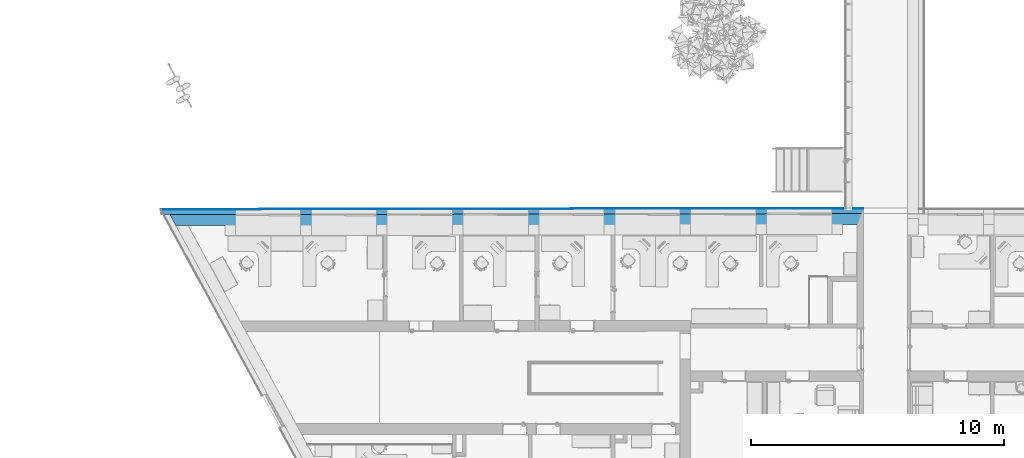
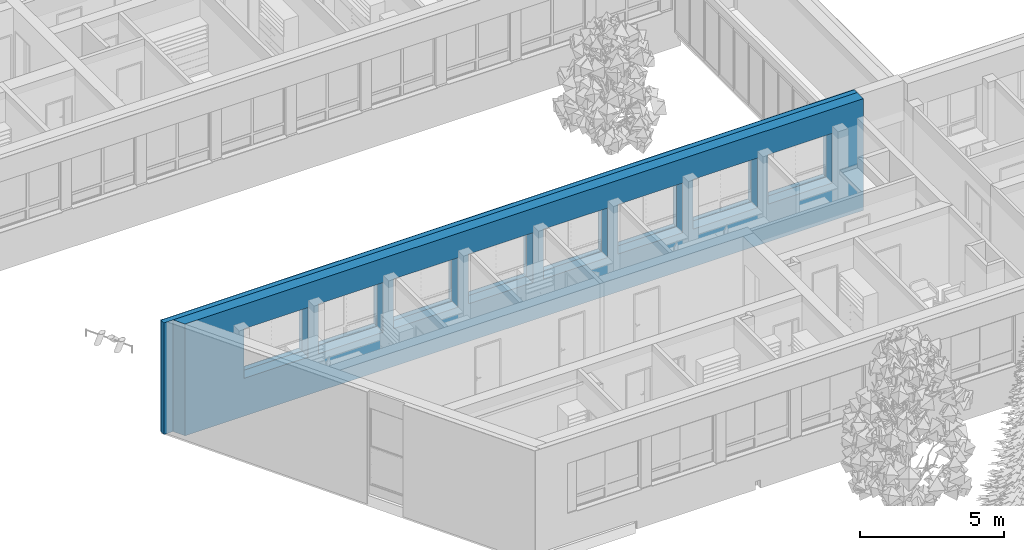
# One storey, part 88 of 194: 3 building element parts, 8 openings, 1 element without a shape of its own.
"""IFC2X3 building model written with IfcOpenShell, lengths in millimetres."""

from ifc_helpers import new_model, entity, si_unit, converted_unit, derived_unit, money_unit, direction, frame, origin_with_axes, origin_2d_with_axis, place, context, subcontext, project, spatial, polyline, rectangle, outline, extrude, boolean, faceted_brep, material, type_object, element, aggregate, save


model = new_model("IFC2X3")

# Units and contexts
model_context = context("Model", 3, precision=1e-05, world=origin_with_axes(), true_north=direction((0.0, 1.0)))
body_context = subcontext(model_context, "Body", "Model", "MODEL_VIEW")
ifc_project = project(units=[si_unit("LENGTHUNIT", "METRE", prefix="MILLI"), si_unit("AREAUNIT", "SQUARE_METRE"), si_unit("VOLUMEUNIT", "CUBIC_METRE"), converted_unit("PLANEANGLEUNIT", "DEGREE", entity("IfcPlaneAngleMeasure", 0.0174532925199), si_unit("PLANEANGLEUNIT", "RADIAN"), dimensions=[0, 0, 0, 0, 0, 0, 0]), si_unit("SOLIDANGLEUNIT", "STERADIAN"), money_unit("EUR"), converted_unit("TIMEUNIT", "Year", entity("IfcTimeMeasure", 31556926.0), si_unit("TIMEUNIT", "SECOND"), dimensions=[0, 0, 1, 0, 0, 0, 0]), si_unit("MASSUNIT", "GRAM", prefix="KILO"), si_unit("THERMODYNAMICTEMPERATUREUNIT", "DEGREE_CELSIUS"), si_unit("LUMINOUSINTENSITYUNIT", "LUMEN"), si_unit("ENERGYUNIT", "JOULE", prefix="MEGA"), derived_unit("THERMALCONDUCTANCEUNIT", [(si_unit("POWERUNIT", "WATT"), 1), (si_unit("LENGTHUNIT", "METRE"), -1), (si_unit("THERMODYNAMICTEMPERATUREUNIT", "KELVIN"), -1)]), derived_unit("SPECIFICHEATCAPACITYUNIT", [(si_unit("ENERGYUNIT", "JOULE"), 1), (si_unit("MASSUNIT", "GRAM", prefix="KILO"), -1), (si_unit("THERMODYNAMICTEMPERATUREUNIT", "KELVIN"), -1)]), derived_unit("MASSDENSITYUNIT", [(si_unit("MASSUNIT", "GRAM", prefix="KILO"), 1), (si_unit("VOLUMEUNIT", "CUBIC_METRE"), -1)])], contexts=[model_context])

# Site, building, storey
site_placement = place(None, origin_with_axes())
site = spatial("IfcSite", under=ifc_project, at=site_placement, Name="Site", CompositionType="ELEMENT")
building_placement = place(site_placement, origin_with_axes())
building = spatial("IfcBuilding", under=site, at=building_placement, Name="Building", CompositionType="ELEMENT")
storey_placement = place(building_placement, frame((0.0, 0.0, 3000.0), z_axis=(0.0, 0.0, 1.0), x_axis=(1.0, 0.0, 0.0)))
storey = spatial("IfcBuildingStorey", under=building, at=storey_placement, Name="2 KORRUS", CompositionType="ELEMENT", Elevation=3000.0)

# Wall, openings, building element parts
wall_type = type_object("IfcWallType", Name="VS4", PredefinedType="NOTDEFINED")
wall_placement = place(storey_placement, frame((10563.4683047, 47277.3075683, -750.0), z_axis=(0.0, 0.0, 1.0), x_axis=(0.999998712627, 0.00160460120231, 0.0)))
wall = element("IfcWall", 1, at=wall_placement, inside=storey, type_object=wall_type, Name="VS4")
opening_1_placement = place(wall_placement, frame((3879.94877844, -9.09494701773e-10, 1600.0), z_axis=(0.0, 0.0, 1.0), x_axis=(1.0, 0.0, 0.0)))
element("IfcOpeningElement", 2, at=opening_1_placement, cuts=wall, Name="välisaken * Double Window 22", context=body_context, shape_type="SweptSolid", body=[
    extrude(rectangle(XDim=2580.0, YDim=2100.0, at=origin_2d_with_axis()), frame((0.0, 20.0000000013, 1050.0), z_axis=(0.0, -1.0, 0.0), x_axis=(1.0, 0.0, 0.0)), (0.0, 0.0, 1.0), 1100.0),
    extrude(rectangle(XDim=2580.0, YDim=2100.0, at=origin_2d_with_axis()), frame((0.0, 20.0000000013, 1050.0), z_axis=(0.0, 1.0, 0.0), x_axis=(1.0, 0.0, 0.0)), (0.0, 0.0, 1.0), 850.0),
])
opening_2_placement = place(wall_placement, frame((6881.81651348, 0.0, 1600.0), z_axis=(0.0, 0.0, 1.0), x_axis=(1.0, 0.0, 0.0)))
element("IfcOpeningElement", 3, at=opening_2_placement, cuts=wall, Name="välisaken * Double Window 22", context=body_context, shape_type="SweptSolid", body=[
    extrude(rectangle(XDim=2580.0, YDim=2100.0, at=origin_2d_with_axis()), frame((0.0, 19.9999999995, 1050.0), z_axis=(0.0, -1.0, 0.0), x_axis=(1.0, 0.0, 0.0)), (0.0, 0.0, 1.0), 1100.0),
    extrude(rectangle(XDim=2580.0, YDim=2100.0, at=origin_2d_with_axis()), frame((0.0, 19.9999999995, 1050.0), z_axis=(0.0, 1.0, 0.0), x_axis=(1.0, 0.0, 0.0)), (0.0, 0.0, 1.0), 850.0),
])
opening_3_placement = place(wall_placement, frame((9881.50296088, 0.0, 1600.0), z_axis=(0.0, 0.0, 1.0), x_axis=(1.0, 0.0, 0.0)))
element("IfcOpeningElement", 4, at=opening_3_placement, cuts=wall, Name="välisaken * Double Window 22", context=body_context, shape_type="SweptSolid", body=[
    extrude(rectangle(XDim=2580.0, YDim=2100.0, at=origin_2d_with_axis()), frame((1.13686837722e-10, 19.9999999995, 1050.0), z_axis=(0.0, -1.0, 0.0), x_axis=(1.0, 0.0, 0.0)), (0.0, 0.0, 1.0), 1100.0),
    extrude(rectangle(XDim=2580.0, YDim=2100.0, at=origin_2d_with_axis()), frame((2.27373675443e-10, 19.9999999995, 1050.0), z_axis=(0.0, 1.0, 0.0), x_axis=(1.0, 0.0, 0.0)), (0.0, 0.0, 1.0), 850.0),
])
opening_4_placement = place(wall_placement, frame((12880.3488158, 0.0, 1600.0), z_axis=(0.0, 0.0, 1.0), x_axis=(1.0, 0.0, 0.0)))
element("IfcOpeningElement", 5, at=opening_4_placement, cuts=wall, Name="välisaken * Double Window 22", context=body_context, shape_type="SweptSolid", body=[
    extrude(rectangle(XDim=2580.0, YDim=2100.0, at=origin_2d_with_axis()), frame((-1.13686837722e-10, 19.9999999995, 1050.0), z_axis=(0.0, -1.0, 0.0), x_axis=(1.0, 0.0, 0.0)), (0.0, 0.0, 1.0), 1100.0),
    extrude(rectangle(XDim=2580.0, YDim=2100.0, at=origin_2d_with_axis()), frame((-1.13686837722e-10, 19.9999999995, 1050.0), z_axis=(0.0, 1.0, 0.0), x_axis=(1.0, 0.0, 0.0)), (0.0, 0.0, 1.0), 850.0),
])
opening_5_placement = place(wall_placement, frame((15879.6765161, -9.09494701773e-10, 1600.0), z_axis=(0.0, 0.0, 1.0), x_axis=(1.0, 0.0, 0.0)))
element("IfcOpeningElement", 6, at=opening_5_placement, cuts=wall, Name="välisaken * Double Window 22", context=body_context, shape_type="SweptSolid", body=[
    extrude(rectangle(XDim=2580.0, YDim=2100.0, at=origin_2d_with_axis()), frame((0.0, 20.0000000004, 1050.0), z_axis=(0.0, -1.0, 0.0), x_axis=(1.0, 0.0, 0.0)), (0.0, 0.0, 1.0), 1100.0),
    extrude(rectangle(XDim=2580.0, YDim=2100.0, at=origin_2d_with_axis()), frame((0.0, 20.0000000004, 1050.0), z_axis=(0.0, 1.0, 0.0), x_axis=(1.0, 0.0, 0.0)), (0.0, 0.0, 1.0), 850.0),
])
opening_6_placement = place(wall_placement, frame((18881.0601384, -9.09494701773e-10, 1600.0), z_axis=(0.0, 0.0, 1.0), x_axis=(1.0, 0.0, 0.0)))
element("IfcOpeningElement", 7, at=opening_6_placement, cuts=wall, Name="välisaken * Double Window 22", context=body_context, shape_type="SweptSolid", body=[
    extrude(rectangle(XDim=2580.0, YDim=2100.0, at=origin_2d_with_axis()), frame((0.0, 20.0000000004, 1050.0), z_axis=(0.0, -1.0, 0.0), x_axis=(1.0, 0.0, 0.0)), (0.0, 0.0, 1.0), 1100.0),
    extrude(rectangle(XDim=2580.0, YDim=2100.0, at=origin_2d_with_axis()), frame((0.0, 20.0000000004, 1050.0), z_axis=(0.0, 1.0, 0.0), x_axis=(1.0, 0.0, 0.0)), (0.0, 0.0, 1.0), 850.0),
])
opening_7_placement = place(wall_placement, frame((21879.6687931, 0.0, 1600.0), z_axis=(0.0, 0.0, 1.0), x_axis=(1.0, 0.0, 0.0)))
element("IfcOpeningElement", 8, at=opening_7_placement, cuts=wall, Name="välisaken * Double Window 22", context=body_context, shape_type="SweptSolid", body=[
    extrude(rectangle(XDim=2580.0, YDim=2100.0, at=origin_2d_with_axis()), frame((0.0, 19.9999999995, 1050.0), z_axis=(0.0, -1.0, 0.0), x_axis=(1.0, 0.0, 0.0)), (0.0, 0.0, 1.0), 1100.0),
    extrude(rectangle(XDim=2580.0, YDim=2100.0, at=origin_2d_with_axis()), frame((0.0, 19.9999999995, 1050.0), z_axis=(0.0, 1.0, 0.0), x_axis=(1.0, 0.0, 0.0)), (0.0, 0.0, 1.0), 850.0),
])
opening_8_placement = place(wall_placement, frame((24879.6649316, 0.0, 1600.0), z_axis=(0.0, 0.0, 1.0), x_axis=(1.0, 0.0, 0.0)))
element("IfcOpeningElement", 9, at=opening_8_placement, cuts=wall, Name="välisaken * Double Window 22", context=body_context, shape_type="SweptSolid", body=[
    extrude(rectangle(XDim=2580.0, YDim=2100.0, at=origin_2d_with_axis()), frame((1.13686837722e-10, 19.9999999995, 1050.0), z_axis=(0.0, -1.0, 0.0), x_axis=(1.0, 0.0, 0.0)), (0.0, 0.0, 1.0), 1100.0),
    extrude(rectangle(XDim=2580.0, YDim=2100.0, at=origin_2d_with_axis()), frame((1.13686837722e-10, 19.9999999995, 1050.0), z_axis=(0.0, 1.0, 0.0), x_axis=(1.0, 0.0, 0.0)), (0.0, 0.0, 1.0), 850.0),
])
ifc_material_1 = material(Name="Tellis - Konstuktsioon")
building_element_part_1_placement = place(wall_placement, origin_with_axes())
solid_1 = boolean("DIFFERENCE", boolean("DIFFERENCE", boolean("DIFFERENCE", boolean("DIFFERENCE", boolean("DIFFERENCE", boolean("DIFFERENCE", boolean("DIFFERENCE", boolean("DIFFERENCE", extrude(outline(polyline([(-369.310330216, -430.0), (27420.7720224, -430.0), (27420.7720224, -9.09494701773e-10), (-369.310330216, -9.09494701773e-10), (-369.310330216, -430.0)])), origin_with_axes(), (0.0, 0.0, 1.0), 4730.0), faceted_brep([(232.840344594, -430.0, 0.0), (232.840344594, -430.0, 4730.0), (-369.310330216, -430.0, 4730.0), (-369.310330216, -430.0, 0.0), (-1.13686837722e-10, 0.0, 4730.0), (-1.13686837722e-10, 0.0, 0.0), (-369.310330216, -1.81898940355e-09, 4730.0), (-369.310330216, -1.81898940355e-09, 0.0)], [[[0, 1, 2, 3]], [[4, 1, 0, 5]], [[1, 4, 6, 2]], [[6, 7, 3, 2]], [[5, 0, 3, 7]], [[4, 5, 7, 6]]])), faceted_brep([(27420.4190097, -1.81898940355e-09, 4730.0), (27420.4190097, -429.999999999, 4730.0), (27420.7720224, -430.0, 4730.0), (27420.7720224, -1.81898940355e-09, 4730.0), (27420.4190097, -429.999999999, 4000.0), (27420.4190097, -9.09494701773e-10, 4000.0), (27420.4190097, -429.999999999, 750.0), (27420.4190097, -429.999999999, 0.0), (27420.7720224, -430.0, 0.0), (27419.7290303, -430.000000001, 4000.0), (27419.7290303, -430.000000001, 750.0), (27420.7720224, -1.81898940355e-09, 0.0), (27420.4190097, -9.09494701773e-10, 0.0), (27420.4190097, -9.09494701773e-10, 750.0)], [[[0, 1, 2, 3]], [[4, 1, 0, 5]], [[6, 7, 8, 2, 1, 4, 9, 10]], [[2, 8, 11, 3]], [[5, 0, 3, 11, 12, 13]], [[9, 4, 5]], [[7, 6, 13, 12]], [[7, 12, 11, 8]], [[5, 13, 10, 9]], [[6, 10, 13]]])), faceted_brep([(-227.438829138, -9.09494701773e-10, 367.85512503), (-227.438829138, -9.09494701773e-10, 4730.0), (-369.310330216, -1.81898940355e-09, 4730.0), (-369.310330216, -1.81898940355e-09, 0.0), (3445.44501601, -9.09494701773e-10, 0.0), (3445.44501601, -9.09494701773e-10, 547.981410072), (2875.23680194, -9.09494701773e-10, 547.981410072), (2875.23680194, -9.09494701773e-10, 367.85512503), (-335.736663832, 199.999999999, 4730.0), (-335.736663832, 199.999999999, 367.85512503), (-369.310330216, 199.999999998, 4730.0), (-369.310330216, 199.999999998, 0.0), (3335.80020226, 199.999999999, 0.0), (2763.31397448, 199.999999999, 0.0), (2766.28404607, 198.737636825, 0.0), (2765.59198819, 199.999999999, 0.0), (3335.80020226, 199.999999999, 547.981410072), (2765.59198819, 199.999999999, 547.981410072), (2766.28404607, 198.737636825, 367.85512503), (2763.31397448, 199.999999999, 367.85512503)], [[[0, 1, 2, 3, 4, 5, 6, 7]], [[8, 1, 0, 9]], [[1, 8, 10, 2]], [[10, 11, 3, 2]], [[12, 4, 3, 11, 13, 14, 15]], [[5, 4, 12, 16]], [[6, 5, 16, 17]], [[7, 6, 17, 15, 14, 18]], [[7, 18, 19, 9, 0]], [[19, 13, 11, 10, 8, 9]], [[14, 13, 19, 18]], [[16, 12, 15, 17]]])), faceted_brep([(2390.58754473, 199.999999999, 1630.0), (2390.58754473, 199.999999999, 3730.0), (26591.2158236, 199.999999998, 3730.0), (26591.2158236, 199.999999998, 1630.0), (2390.40922678, 88.8710036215, 1630.0), (2390.40922678, 88.8710036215, 3730.0), (26590.9751952, 50.0386963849, 3730.0), (26590.9751952, 50.0386963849, 1630.0)], [[[0, 1, 2, 3]], [[1, 0, 4, 5]], [[2, 1, 5, 6]], [[3, 2, 6, 7]], [[0, 3, 7, 4]], [[4, 7, 6, 5]]])), faceted_brep([(27420.4190097, 200.0, 750.0), (27420.7399304, 199.999999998, 750.0), (27420.7399304, 199.999999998, 4000.0), (27420.4190097, 199.999999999, 4000.0), (27420.4190097, 199.999999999, 4730.0), (27420.7720224, 199.999999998, 4730.0), (27420.7720224, 199.999999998, 0.0), (26918.9269386, 199.999999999, 0.0), (26918.9269386, 199.999999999, 750.0), (27420.4190097, -9.09494701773e-10, 750.0), (27420.4190097, -9.09494701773e-10, 4000.0), (27420.4190097, -1.81898940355e-09, 4730.0), (27420.7720224, -1.81898940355e-09, 4730.0), (27420.7720224, -1.81898940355e-09, 0.0), (26918.5333872, -9.09494701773e-10, 0.0), (26918.5333872, -9.09494701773e-10, 750.0)], [[[0, 1, 2, 3, 4, 5, 6, 7, 8]], [[1, 0, 9]], [[2, 1, 9, 10]], [[3, 2, 10]], [[10, 11, 4, 3]], [[4, 11, 12, 5]], [[12, 13, 6, 5]], [[14, 7, 6, 13]], [[7, 14, 15, 8]], [[15, 9, 0, 8]], [[15, 14, 13, 12, 11, 10, 9]]])), faceted_brep([(-358.480546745, 199.999999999, 0.0), (-358.480546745, 199.999999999, 4730.0), (-369.310330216, 199.999999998, 4730.0), (-369.310330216, 199.999999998, 0.0), (-369.310330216, 220.000000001, 4730.0), (-369.310330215, 219.999999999, 0.0)], [[[0, 1, 2, 3]], [[4, 1, 0, 5]], [[1, 4, 2]], [[4, 5, 3, 2]], [[5, 0, 3]]])), faceted_brep([(-340.291160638, 200.0, 367.85512503), (-340.291160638, 200.0, 0.0), (2763.31397448, 199.999999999, 0.0), (2763.31397448, 199.999999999, 367.85512503), (-350.10271684, 218.119579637, 367.85512503), (-350.10271684, 218.119579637, 0.0), (2745.05453693, 207.760769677, 0.0), (2745.05453693, 207.760769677, 367.85512503)], [[[0, 1, 2, 3]], [[1, 0, 4, 5]], [[6, 2, 1, 5]], [[2, 6, 7, 3]], [[0, 3, 7, 4]], [[6, 5, 4, 7]]])), faceted_brep([(2765.59198819, 199.999999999, 547.981410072), (2765.59198819, 199.999999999, 0.0), (3335.80020226, 199.999999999, 0.0), (3335.80020226, 199.999999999, 547.981410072), (2754.62750682, 219.999999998, 0.0), (2754.62750657, 220.000000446, 547.981410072), (3324.83572089, 219.999999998, 0.0), (3324.83572064, 220.000000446, 547.981410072)], [[[0, 1, 2, 3]], [[4, 1, 0, 5]], [[6, 2, 1, 4]], [[2, 6, 7, 3]], [[7, 5, 0, 3]], [[7, 6, 4, 5]]]))
building_element_part_1 = element("IfcBuildingElementPart", 10, at=building_element_part_1_placement, material=ifc_material_1, Name="Tellis - Konstuktsioon", context=body_context, shape_type="CSG", body=[
    boolean("DIFFERENCE", boolean("DIFFERENCE", solid_1, faceted_brep([(2390.58754473, 199.999999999, 1630.0), (26591.2158236, 199.999999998, 1630.0), (26591.2158236, 199.999999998, 3730.0), (2390.58754473, 199.999999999, 3730.0), (2390.61963679, 219.999999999, 1630.0), (26591.2479157, 219.999999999, 1630.0), (26591.2479157, 219.999999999, 3730.0), (2390.61963679, 219.999999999, 3730.0)], [[[0, 1, 2, 3]], [[4, 5, 1, 0]], [[5, 6, 2, 1]], [[6, 7, 3, 2]], [[7, 4, 0, 3]], [[4, 7, 6, 5]]])), faceted_brep([(27420.7720224, 219.999999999, 750.0), (27420.7720224, 220.000000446, 4000.0), (27420.7720224, 219.999999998, 4730.0), (27420.7720224, 199.999999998, 4730.0), (27420.7720224, 199.999999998, 0.0), (27420.7720224, 219.999999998, 0.0), (27420.7399304, 199.999999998, 750.0), (27420.7399304, 199.999999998, 4000.0), (27420.4190097, 220.000000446, 4000.0), (27420.4190097, 220.000000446, 4730.0), (27420.4190097, 199.999999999, 4730.0), (26918.9269386, 199.999999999, 750.0), (26918.9269386, 199.999999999, 0.0), (27420.4190097, 199.999999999, 4000.0), (27420.4190097, 200.0, 750.0), (26918.9662938, 219.999999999, 0.0), (27420.4190097, 219.999999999, 750.0), (26918.9662938, 220.000000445, 750.0)], [[[0, 1, 2, 3, 4, 5]], [[1, 0, 6, 7]], [[8, 9, 2, 1]], [[9, 10, 3, 2]], [[11, 12, 4, 3, 10, 13, 7, 6, 14]], [[12, 15, 5, 4]], [[16, 0, 5, 15, 17]], [[0, 16, 14, 6]], [[8, 1, 7, 13]], [[13, 10, 9, 8]], [[17, 15, 12, 11]], [[16, 17, 11, 14]]])),
])
ifc_material_2 = material(Name="Soojustus - Plastik Kõva")
building_element_part_2_placement = place(wall_placement, origin_with_axes())
solid_2 = boolean("DIFFERENCE", boolean("DIFFERENCE", boolean("DIFFERENCE", boolean("DIFFERENCE", boolean("DIFFERENCE", boolean("DIFFERENCE", boolean("DIFFERENCE", boolean("DIFFERENCE", extrude(outline(polyline([(-369.310330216, -9.09494701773e-10), (27420.7720224, -9.09494701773e-10), (27420.7720224, 199.999999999), (-369.310330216, 199.999999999), (-369.310330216, -9.09494701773e-10)])), origin_with_axes(), (0.0, 0.0, 1.0), 4730.0), faceted_brep([(232.840344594, -430.0, 0.0), (232.840344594, -430.0, 4730.0), (-369.310330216, -430.0, 4730.0), (-369.310330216, -430.0, 0.0), (-1.13686837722e-10, 0.0, 4730.0), (-1.13686837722e-10, 0.0, 0.0), (-369.310330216, -1.81898940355e-09, 4730.0), (-369.310330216, -1.81898940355e-09, 0.0)], [[[0, 1, 2, 3]], [[4, 1, 0, 5]], [[1, 4, 6, 2]], [[6, 7, 3, 2]], [[5, 0, 3, 7]], [[4, 5, 7, 6]]])), faceted_brep([(27420.4190097, -1.81898940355e-09, 4730.0), (27420.4190097, -429.999999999, 4730.0), (27420.7720224, -430.0, 4730.0), (27420.7720224, -1.81898940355e-09, 4730.0), (27420.4190097, -429.999999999, 4000.0), (27420.4190097, -9.09494701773e-10, 4000.0), (27420.4190097, -429.999999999, 750.0), (27420.4190097, -429.999999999, 0.0), (27420.7720224, -430.0, 0.0), (27419.7290303, -430.000000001, 4000.0), (27419.7290303, -430.000000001, 750.0), (27420.7720224, -1.81898940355e-09, 0.0), (27420.4190097, -9.09494701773e-10, 0.0), (27420.4190097, -9.09494701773e-10, 750.0)], [[[0, 1, 2, 3]], [[4, 1, 0, 5]], [[6, 7, 8, 2, 1, 4, 9, 10]], [[2, 8, 11, 3]], [[5, 0, 3, 11, 12, 13]], [[9, 4, 5]], [[7, 6, 13, 12]], [[7, 12, 11, 8]], [[5, 13, 10, 9]], [[6, 10, 13]]])), faceted_brep([(-227.438829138, -9.09494701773e-10, 367.85512503), (-227.438829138, -9.09494701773e-10, 4730.0), (-369.310330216, -1.81898940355e-09, 4730.0), (-369.310330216, -1.81898940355e-09, 0.0), (3445.44501601, -9.09494701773e-10, 0.0), (3445.44501601, -9.09494701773e-10, 547.981410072), (2875.23680194, -9.09494701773e-10, 547.981410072), (2875.23680194, -9.09494701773e-10, 367.85512503), (-335.736663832, 199.999999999, 4730.0), (-335.736663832, 199.999999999, 367.85512503), (-369.310330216, 199.999999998, 4730.0), (-369.310330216, 199.999999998, 0.0), (3335.80020226, 199.999999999, 0.0), (2763.31397448, 199.999999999, 0.0), (2766.28404607, 198.737636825, 0.0), (2765.59198819, 199.999999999, 0.0), (3335.80020226, 199.999999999, 547.981410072), (2765.59198819, 199.999999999, 547.981410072), (2766.28404607, 198.737636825, 367.85512503), (2763.31397448, 199.999999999, 367.85512503)], [[[0, 1, 2, 3, 4, 5, 6, 7]], [[8, 1, 0, 9]], [[1, 8, 10, 2]], [[10, 11, 3, 2]], [[12, 4, 3, 11, 13, 14, 15]], [[5, 4, 12, 16]], [[6, 5, 16, 17]], [[7, 6, 17, 15, 14, 18]], [[7, 18, 19, 9, 0]], [[19, 13, 11, 10, 8, 9]], [[14, 13, 19, 18]], [[16, 12, 15, 17]]])), faceted_brep([(2390.58754473, 199.999999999, 1630.0), (2390.58754473, 199.999999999, 3730.0), (26591.2158236, 199.999999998, 3730.0), (26591.2158236, 199.999999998, 1630.0), (2390.40922678, 88.8710036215, 1630.0), (2390.40922678, 88.8710036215, 3730.0), (26590.9751952, 50.0386963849, 3730.0), (26590.9751952, 50.0386963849, 1630.0)], [[[0, 1, 2, 3]], [[1, 0, 4, 5]], [[2, 1, 5, 6]], [[3, 2, 6, 7]], [[0, 3, 7, 4]], [[4, 7, 6, 5]]])), faceted_brep([(27420.4190097, 200.0, 750.0), (27420.7399304, 199.999999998, 750.0), (27420.7399304, 199.999999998, 4000.0), (27420.4190097, 199.999999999, 4000.0), (27420.4190097, 199.999999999, 4730.0), (27420.7720224, 199.999999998, 4730.0), (27420.7720224, 199.999999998, 0.0), (26918.9269386, 199.999999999, 0.0), (26918.9269386, 199.999999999, 750.0), (27420.4190097, -9.09494701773e-10, 750.0), (27420.4190097, -9.09494701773e-10, 4000.0), (27420.4190097, -1.81898940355e-09, 4730.0), (27420.7720224, -1.81898940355e-09, 4730.0), (27420.7720224, -1.81898940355e-09, 0.0), (26918.5333872, -9.09494701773e-10, 0.0), (26918.5333872, -9.09494701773e-10, 750.0)], [[[0, 1, 2, 3, 4, 5, 6, 7, 8]], [[1, 0, 9]], [[2, 1, 9, 10]], [[3, 2, 10]], [[10, 11, 4, 3]], [[4, 11, 12, 5]], [[12, 13, 6, 5]], [[14, 7, 6, 13]], [[7, 14, 15, 8]], [[15, 9, 0, 8]], [[15, 14, 13, 12, 11, 10, 9]]])), faceted_brep([(-358.480546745, 199.999999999, 0.0), (-358.480546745, 199.999999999, 4730.0), (-369.310330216, 199.999999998, 4730.0), (-369.310330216, 199.999999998, 0.0), (-369.310330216, 220.000000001, 4730.0), (-369.310330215, 219.999999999, 0.0)], [[[0, 1, 2, 3]], [[4, 1, 0, 5]], [[1, 4, 2]], [[4, 5, 3, 2]], [[5, 0, 3]]])), faceted_brep([(-340.291160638, 200.0, 367.85512503), (-340.291160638, 200.0, 0.0), (2763.31397448, 199.999999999, 0.0), (2763.31397448, 199.999999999, 367.85512503), (-350.10271684, 218.119579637, 367.85512503), (-350.10271684, 218.119579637, 0.0), (2745.05453693, 207.760769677, 0.0), (2745.05453693, 207.760769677, 367.85512503)], [[[0, 1, 2, 3]], [[1, 0, 4, 5]], [[6, 2, 1, 5]], [[2, 6, 7, 3]], [[0, 3, 7, 4]], [[6, 5, 4, 7]]])), faceted_brep([(2765.59198819, 199.999999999, 547.981410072), (2765.59198819, 199.999999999, 0.0), (3335.80020226, 199.999999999, 0.0), (3335.80020226, 199.999999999, 547.981410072), (2754.62750682, 219.999999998, 0.0), (2754.62750657, 220.000000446, 547.981410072), (3324.83572089, 219.999999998, 0.0), (3324.83572064, 220.000000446, 547.981410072)], [[[0, 1, 2, 3]], [[4, 1, 0, 5]], [[6, 2, 1, 4]], [[2, 6, 7, 3]], [[7, 5, 0, 3]], [[7, 6, 4, 5]]]))
building_element_part_2 = element("IfcBuildingElementPart", 11, at=building_element_part_2_placement, material=ifc_material_2, Name="Soojustus - Plastik Kõva", context=body_context, shape_type="CSG", body=[
    boolean("DIFFERENCE", boolean("DIFFERENCE", solid_2, faceted_brep([(2390.58754473, 199.999999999, 1630.0), (26591.2158236, 199.999999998, 1630.0), (26591.2158236, 199.999999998, 3730.0), (2390.58754473, 199.999999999, 3730.0), (2390.61963679, 219.999999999, 1630.0), (26591.2479157, 219.999999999, 1630.0), (26591.2479157, 219.999999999, 3730.0), (2390.61963679, 219.999999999, 3730.0)], [[[0, 1, 2, 3]], [[4, 5, 1, 0]], [[5, 6, 2, 1]], [[6, 7, 3, 2]], [[7, 4, 0, 3]], [[4, 7, 6, 5]]])), faceted_brep([(27420.7720224, 219.999999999, 750.0), (27420.7720224, 220.000000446, 4000.0), (27420.7720224, 219.999999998, 4730.0), (27420.7720224, 199.999999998, 4730.0), (27420.7720224, 199.999999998, 0.0), (27420.7720224, 219.999999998, 0.0), (27420.7399304, 199.999999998, 750.0), (27420.7399304, 199.999999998, 4000.0), (27420.4190097, 220.000000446, 4000.0), (27420.4190097, 220.000000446, 4730.0), (27420.4190097, 199.999999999, 4730.0), (26918.9269386, 199.999999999, 750.0), (26918.9269386, 199.999999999, 0.0), (27420.4190097, 199.999999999, 4000.0), (27420.4190097, 200.0, 750.0), (26918.9662938, 219.999999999, 0.0), (27420.4190097, 219.999999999, 750.0), (26918.9662938, 220.000000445, 750.0)], [[[0, 1, 2, 3, 4, 5]], [[1, 0, 6, 7]], [[8, 9, 2, 1]], [[9, 10, 3, 2]], [[11, 12, 4, 3, 10, 13, 7, 6, 14]], [[12, 15, 5, 4]], [[16, 0, 5, 15, 17]], [[0, 16, 14, 6]], [[8, 1, 7, 13]], [[13, 10, 9, 8]], [[17, 15, 12, 11]], [[16, 17, 11, 14]]])),
])
ifc_material_3 = material(Name="Tellis - Viimistlus")
building_element_part_3_placement = place(wall_placement, origin_with_axes())
solid_3 = boolean("DIFFERENCE", boolean("DIFFERENCE", boolean("DIFFERENCE", boolean("DIFFERENCE", boolean("DIFFERENCE", boolean("DIFFERENCE", boolean("DIFFERENCE", boolean("DIFFERENCE", extrude(outline(polyline([(-369.310330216, 199.999999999), (27420.7720224, 199.999999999), (27420.7720224, 219.999999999), (-369.310330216, 219.999999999), (-369.310330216, 199.999999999)])), origin_with_axes(), (0.0, 0.0, 1.0), 4730.0), faceted_brep([(232.840344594, -430.0, 0.0), (232.840344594, -430.0, 4730.0), (-369.310330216, -430.0, 4730.0), (-369.310330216, -430.0, 0.0), (-1.13686837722e-10, 0.0, 4730.0), (-1.13686837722e-10, 0.0, 0.0), (-369.310330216, -1.81898940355e-09, 4730.0), (-369.310330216, -1.81898940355e-09, 0.0)], [[[0, 1, 2, 3]], [[4, 1, 0, 5]], [[1, 4, 6, 2]], [[6, 7, 3, 2]], [[5, 0, 3, 7]], [[4, 5, 7, 6]]])), faceted_brep([(27420.4190097, -1.81898940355e-09, 4730.0), (27420.4190097, -429.999999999, 4730.0), (27420.7720224, -430.0, 4730.0), (27420.7720224, -1.81898940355e-09, 4730.0), (27420.4190097, -429.999999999, 4000.0), (27420.4190097, -9.09494701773e-10, 4000.0), (27420.4190097, -429.999999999, 750.0), (27420.4190097, -429.999999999, 0.0), (27420.7720224, -430.0, 0.0), (27419.7290303, -430.000000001, 4000.0), (27419.7290303, -430.000000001, 750.0), (27420.7720224, -1.81898940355e-09, 0.0), (27420.4190097, -9.09494701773e-10, 0.0), (27420.4190097, -9.09494701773e-10, 750.0)], [[[0, 1, 2, 3]], [[4, 1, 0, 5]], [[6, 7, 8, 2, 1, 4, 9, 10]], [[2, 8, 11, 3]], [[5, 0, 3, 11, 12, 13]], [[9, 4, 5]], [[7, 6, 13, 12]], [[7, 12, 11, 8]], [[5, 13, 10, 9]], [[6, 10, 13]]])), faceted_brep([(-227.438829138, -9.09494701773e-10, 367.85512503), (-227.438829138, -9.09494701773e-10, 4730.0), (-369.310330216, -1.81898940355e-09, 4730.0), (-369.310330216, -1.81898940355e-09, 0.0), (3445.44501601, -9.09494701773e-10, 0.0), (3445.44501601, -9.09494701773e-10, 547.981410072), (2875.23680194, -9.09494701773e-10, 547.981410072), (2875.23680194, -9.09494701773e-10, 367.85512503), (-335.736663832, 199.999999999, 4730.0), (-335.736663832, 199.999999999, 367.85512503), (-369.310330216, 199.999999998, 4730.0), (-369.310330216, 199.999999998, 0.0), (3335.80020226, 199.999999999, 0.0), (2763.31397448, 199.999999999, 0.0), (2766.28404607, 198.737636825, 0.0), (2765.59198819, 199.999999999, 0.0), (3335.80020226, 199.999999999, 547.981410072), (2765.59198819, 199.999999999, 547.981410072), (2766.28404607, 198.737636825, 367.85512503), (2763.31397448, 199.999999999, 367.85512503)], [[[0, 1, 2, 3, 4, 5, 6, 7]], [[8, 1, 0, 9]], [[1, 8, 10, 2]], [[10, 11, 3, 2]], [[12, 4, 3, 11, 13, 14, 15]], [[5, 4, 12, 16]], [[6, 5, 16, 17]], [[7, 6, 17, 15, 14, 18]], [[7, 18, 19, 9, 0]], [[19, 13, 11, 10, 8, 9]], [[14, 13, 19, 18]], [[16, 12, 15, 17]]])), faceted_brep([(2390.58754473, 199.999999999, 1630.0), (2390.58754473, 199.999999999, 3730.0), (26591.2158236, 199.999999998, 3730.0), (26591.2158236, 199.999999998, 1630.0), (2390.40922678, 88.8710036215, 1630.0), (2390.40922678, 88.8710036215, 3730.0), (26590.9751952, 50.0386963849, 3730.0), (26590.9751952, 50.0386963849, 1630.0)], [[[0, 1, 2, 3]], [[1, 0, 4, 5]], [[2, 1, 5, 6]], [[3, 2, 6, 7]], [[0, 3, 7, 4]], [[4, 7, 6, 5]]])), faceted_brep([(27420.4190097, 200.0, 750.0), (27420.7399304, 199.999999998, 750.0), (27420.7399304, 199.999999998, 4000.0), (27420.4190097, 199.999999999, 4000.0), (27420.4190097, 199.999999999, 4730.0), (27420.7720224, 199.999999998, 4730.0), (27420.7720224, 199.999999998, 0.0), (26918.9269386, 199.999999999, 0.0), (26918.9269386, 199.999999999, 750.0), (27420.4190097, -9.09494701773e-10, 750.0), (27420.4190097, -9.09494701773e-10, 4000.0), (27420.4190097, -1.81898940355e-09, 4730.0), (27420.7720224, -1.81898940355e-09, 4730.0), (27420.7720224, -1.81898940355e-09, 0.0), (26918.5333872, -9.09494701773e-10, 0.0), (26918.5333872, -9.09494701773e-10, 750.0)], [[[0, 1, 2, 3, 4, 5, 6, 7, 8]], [[1, 0, 9]], [[2, 1, 9, 10]], [[3, 2, 10]], [[10, 11, 4, 3]], [[4, 11, 12, 5]], [[12, 13, 6, 5]], [[14, 7, 6, 13]], [[7, 14, 15, 8]], [[15, 9, 0, 8]], [[15, 14, 13, 12, 11, 10, 9]]])), faceted_brep([(-358.480546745, 199.999999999, 0.0), (-358.480546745, 199.999999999, 4730.0), (-369.310330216, 199.999999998, 4730.0), (-369.310330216, 199.999999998, 0.0), (-369.310330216, 220.000000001, 4730.0), (-369.310330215, 219.999999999, 0.0)], [[[0, 1, 2, 3]], [[4, 1, 0, 5]], [[1, 4, 2]], [[4, 5, 3, 2]], [[5, 0, 3]]])), faceted_brep([(-340.291160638, 200.0, 367.85512503), (-340.291160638, 200.0, 0.0), (2763.31397448, 199.999999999, 0.0), (2763.31397448, 199.999999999, 367.85512503), (-350.10271684, 218.119579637, 367.85512503), (-350.10271684, 218.119579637, 0.0), (2745.05453693, 207.760769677, 0.0), (2745.05453693, 207.760769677, 367.85512503)], [[[0, 1, 2, 3]], [[1, 0, 4, 5]], [[6, 2, 1, 5]], [[2, 6, 7, 3]], [[0, 3, 7, 4]], [[6, 5, 4, 7]]])), faceted_brep([(2765.59198819, 199.999999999, 547.981410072), (2765.59198819, 199.999999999, 0.0), (3335.80020226, 199.999999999, 0.0), (3335.80020226, 199.999999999, 547.981410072), (2754.62750682, 219.999999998, 0.0), (2754.62750657, 220.000000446, 547.981410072), (3324.83572089, 219.999999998, 0.0), (3324.83572064, 220.000000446, 547.981410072)], [[[0, 1, 2, 3]], [[4, 1, 0, 5]], [[6, 2, 1, 4]], [[2, 6, 7, 3]], [[7, 5, 0, 3]], [[7, 6, 4, 5]]]))
building_element_part_3 = element("IfcBuildingElementPart", 12, at=building_element_part_3_placement, material=ifc_material_3, Name="Tellis - Viimistlus", context=body_context, shape_type="CSG", body=[
    boolean("DIFFERENCE", boolean("DIFFERENCE", solid_3, faceted_brep([(2390.58754473, 199.999999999, 1630.0), (26591.2158236, 199.999999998, 1630.0), (26591.2158236, 199.999999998, 3730.0), (2390.58754473, 199.999999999, 3730.0), (2390.61963679, 219.999999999, 1630.0), (26591.2479157, 219.999999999, 1630.0), (26591.2479157, 219.999999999, 3730.0), (2390.61963679, 219.999999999, 3730.0)], [[[0, 1, 2, 3]], [[4, 5, 1, 0]], [[5, 6, 2, 1]], [[6, 7, 3, 2]], [[7, 4, 0, 3]], [[4, 7, 6, 5]]])), faceted_brep([(27420.7720224, 219.999999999, 750.0), (27420.7720224, 220.000000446, 4000.0), (27420.7720224, 219.999999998, 4730.0), (27420.7720224, 199.999999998, 4730.0), (27420.7720224, 199.999999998, 0.0), (27420.7720224, 219.999999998, 0.0), (27420.7399304, 199.999999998, 750.0), (27420.7399304, 199.999999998, 4000.0), (27420.4190097, 220.000000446, 4000.0), (27420.4190097, 220.000000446, 4730.0), (27420.4190097, 199.999999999, 4730.0), (26918.9269386, 199.999999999, 750.0), (26918.9269386, 199.999999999, 0.0), (27420.4190097, 199.999999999, 4000.0), (27420.4190097, 200.0, 750.0), (26918.9662938, 219.999999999, 0.0), (27420.4190097, 219.999999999, 750.0), (26918.9662938, 220.000000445, 750.0)], [[[0, 1, 2, 3, 4, 5]], [[1, 0, 6, 7]], [[8, 9, 2, 1]], [[9, 10, 3, 2]], [[11, 12, 4, 3, 10, 13, 7, 6, 14]], [[12, 15, 5, 4]], [[16, 0, 5, 15, 17]], [[0, 16, 14, 6]], [[8, 1, 7, 13]], [[13, 10, 9, 8]], [[17, 15, 12, 11]], [[16, 17, 11, 14]]])),
])
aggregate(wall, [building_element_part_1, building_element_part_2, building_element_part_3])

save(model, "model.ifc")
